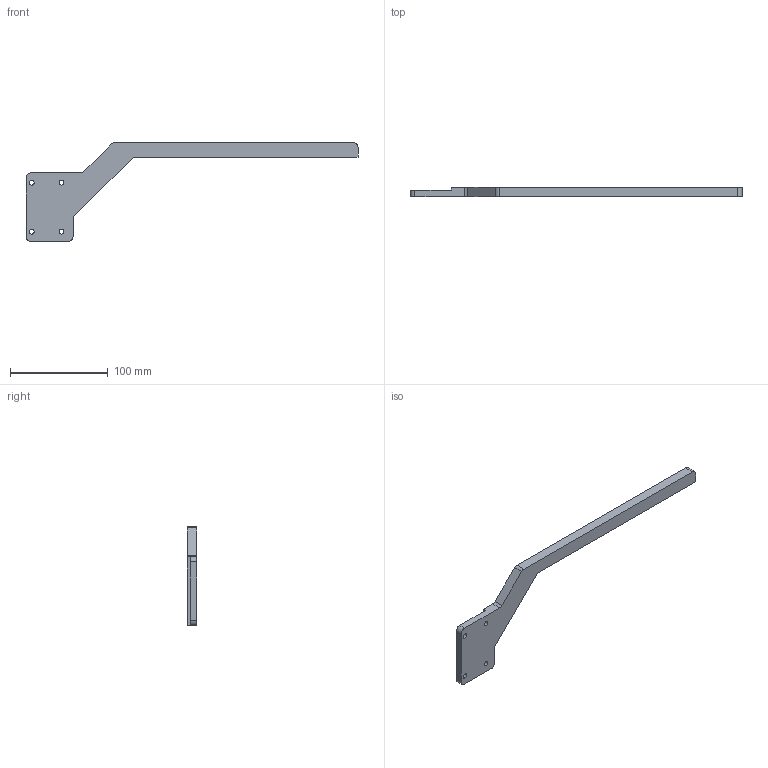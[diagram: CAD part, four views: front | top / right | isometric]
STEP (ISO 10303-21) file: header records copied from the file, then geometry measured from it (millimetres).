
FILE_DESCRIPTION (( 'STEP AP214' ), '1' );
FILE_NAME ('Äåðæàòåëü ñòîëà ïðàâûé.STEP', '2017-09-20T07:02:15', ( 'Certified Windows' ), ( '' ), 'SwSTEP 2.0', 'SolidWorks 2017', '' );
FILE_SCHEMA (( 'AUTOMOTIVE_DESIGN' ));
Length unit declared in the file: millimetre
Products named in the file (1): Äåðæàòåëü ñòîëà ïðàâûé
Bounding box: 339 x 10 x 101 mm (x, y, z)
Volume: 78648.9 mm3; surface area: 26253.1 mm2
Topology: 1 solids, 1 shells, 65 faces, 165 edges, 96 vertices
Faces by surface type: cylinder 28, cone 24, plane 13
Entity records: 2053 total; most frequent: DIRECTION 353, CARTESIAN_POINT 315, ORIENTED_EDGE 306, EDGE_CURVE 153, AXIS2_PLACEMENT_3D 134, VERTEX_POINT 96, VECTOR 85, LINE 85
